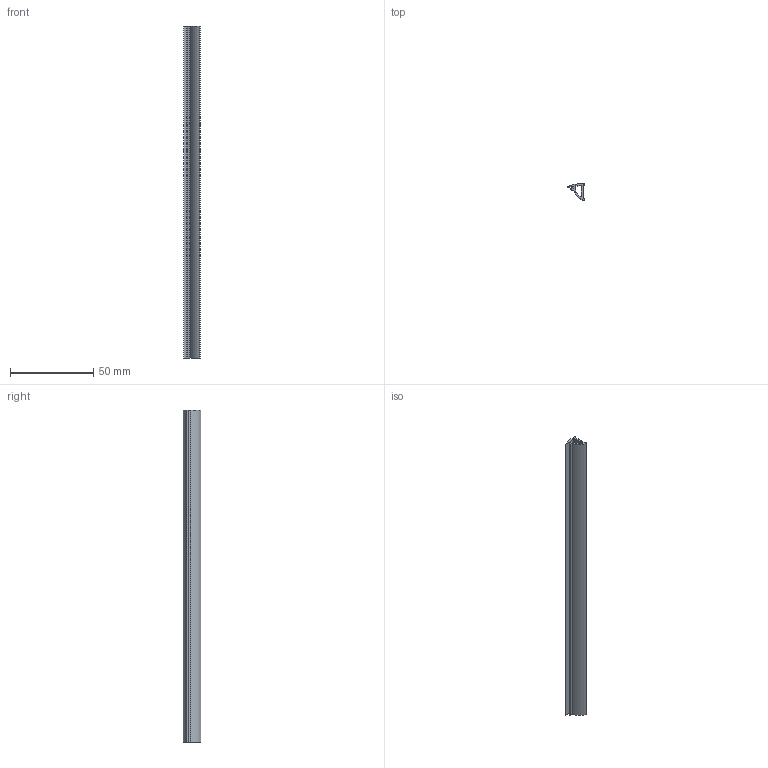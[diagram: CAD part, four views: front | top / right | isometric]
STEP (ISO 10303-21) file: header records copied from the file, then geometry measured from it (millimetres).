
FILE_DESCRIPTION (( 'STEP AP214' ), '1' );
FILE_NAME ('F50806.step', '2024-12-03T16:17:50', ( '' ), ( '' ), 'SwSTEP 2.0', 'SolidWorks 2023', '' );
FILE_SCHEMA (( 'AUTOMOTIVE_DESIGN' ));
Length unit declared in the file: millimetre
Products named in the file (1): F50806
Bounding box: 10.1 x 10.3 x 200 mm (x, y, z)
Volume: 5929.9 mm3; surface area: 11720.5 mm2
Topology: 1 solids, 1 shells, 26 faces, 72 edges, 48 vertices
Faces by surface type: cylinder 15, plane 11
Entity records: 873 total; most frequent: DIRECTION 156, CARTESIAN_POINT 147, ORIENTED_EDGE 144, EDGE_CURVE 72, AXIS2_PLACEMENT_3D 57, VERTEX_POINT 48, LINE 42, VECTOR 42
